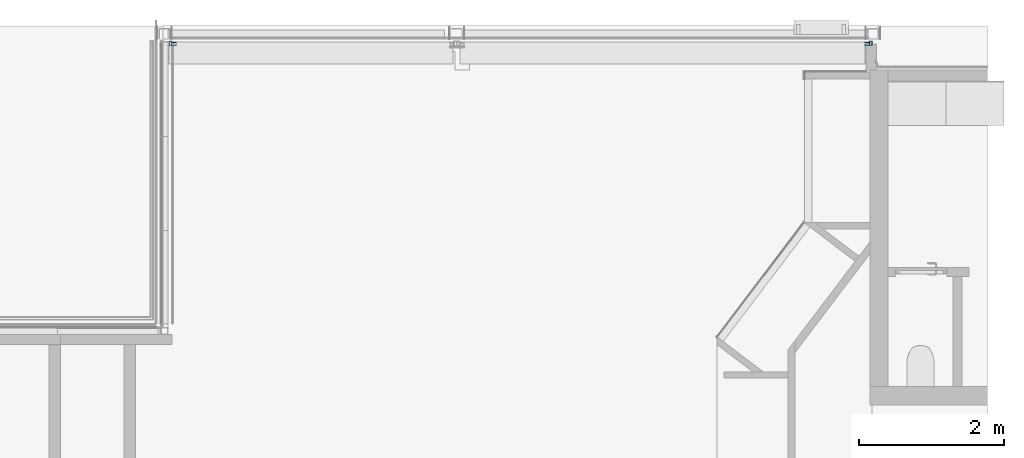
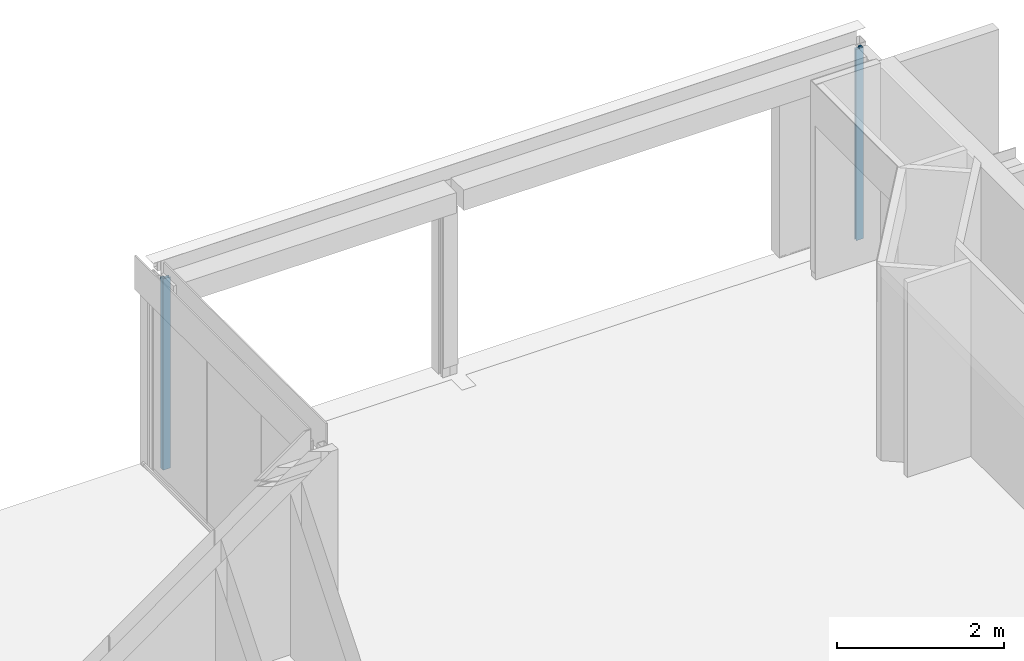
# One storey, part 25 of 37: 2 columns.
"""IFC2X3 building model written with IfcOpenShell, lengths in millimetres."""

import ifcopenshell
import ifcopenshell.guid

model = None  # the IFC model being written
_history = None  # IfcOwnerHistory: only IFC2X3 demands one
_inside = {}  # id of a spatial element -> (the spatial element, [elements in it])
_under = {}  # id of a project, library or spatial element -> (it, [spatial elements below it])
_declared = {}  # id of a project -> (the project, [libraries it declares])
_typed = {}  # id of a type object -> (the type object, [elements of that type])
_made_of = {}  # id of a material, layer set ... -> (it, [elements and type objects made of it])


def new_model(schema):
    """Start an empty IFC model of exactly this schema.

    Asked for "IFC4X3", IfcOpenShell would pick the latest addendum, in which some entities
    have other attributes; the version numbers below select the first issue.
    IFC2X3 requires an IfcOwnerHistory on every rooted entity: one is made here for all.
    """
    global model, _history
    if schema == "IFC4X3":
        model = ifcopenshell.file(schema_version=(4, 3, 0, 0))
    else:
        model = ifcopenshell.file(schema=schema)
    _inside.clear()
    _under.clear()
    _declared.clear()
    _typed.clear()
    _made_of.clear()
    _history = None
    if model.schema == "IFC2X3":
        org = make("IfcOrganization", Name="unknown")
        user = make(
            "IfcPersonAndOrganization",
            ThePerson=make("IfcPerson", FamilyName="unknown"),
            TheOrganization=org,
        )
        app = make(
            "IfcApplication",
            ApplicationDeveloper=org,
            Version="unknown",
            ApplicationFullName="unknown",
            ApplicationIdentifier="unknown",
        )
        _history = make(
            "IfcOwnerHistory",
            OwningUser=user,
            OwningApplication=app,
            ChangeAction="ADDED",
            CreationDate=0,
        )
    return model


def make(cls, **values):
    """One entity of the class cls with the attributes given. An attribute that is None is left unset."""
    return model.create_entity(
        cls, **{name: value for name, value in values.items() if value is not None}
    )


def entity(cls, *values):
    """Any entity or typed value of the class cls, its attributes in the order of the schema. None: left unset."""
    e = model.create_entity(cls)
    for i, value in enumerate(values):
        if value is not None:
            e[i] = value
    return e


def rooted(cls, **values):
    """An entity with a GlobalId (a new one), such as an element, a storey or a relation."""
    return make(cls, GlobalId=ifcopenshell.guid.new(), OwnerHistory=_history, **values)


def si_unit(unit_type, name, prefix=None):
    """IfcSIUnit, for example si_unit("LENGTHUNIT", "METRE", prefix="MILLI")."""
    return make("IfcSIUnit", UnitType=unit_type, Prefix=prefix, Name=name)


def converted_unit(unit_type, name, factor, base, dimensions=None, offset=None):
    """IfcConversionBasedUnit, such as the inch: factor (a typed value) times the base unit."""
    return make(
        "IfcConversionBasedUnit"
        if offset is None
        else "IfcConversionBasedUnitWithOffset",
        ConversionOffset=offset,
        Dimensions=None
        if dimensions is None
        else entity("IfcDimensionalExponents", *dimensions),
        UnitType=unit_type,
        Name=name,
        ConversionFactor=make(
            "IfcMeasureWithUnit", ValueComponent=factor, UnitComponent=base
        ),
    )


def derived_unit(unit_type, elements):
    """IfcDerivedUnit: a product of units, each with its exponent."""
    return make(
        "IfcDerivedUnit",
        Elements=[
            make("IfcDerivedUnitElement", Unit=unit, Exponent=power)
            for unit, power in elements
        ],
        UnitType=unit_type,
    )


def assignment(units):
    """IfcUnitAssignment: the units of a project."""
    return None if units is None else make("IfcUnitAssignment", Units=units)


def point(xyz):
    """IfcCartesianPoint."""
    return None if xyz is None else make("IfcCartesianPoint", Coordinates=xyz)


def direction(xyz):
    """IfcDirection."""
    return None if xyz is None else make("IfcDirection", DirectionRatios=xyz)


def frame(location, z_axis=None, x_axis=None):
    """IfcAxis2Placement3D, a coordinate frame: its origin and axes. An axis left out is left unset."""
    return make(
        "IfcAxis2Placement3D",
        Location=point(location),
        Axis=direction(z_axis),
        RefDirection=direction(x_axis),
    )


def origin():
    """The frame at (0, 0, 0) with its axes left unset."""
    return frame((0.0, 0.0, 0.0))


def origin_with_axes():
    """The frame at (0, 0, 0) with the z axis (0, 0, 1) and the x axis (1, 0, 0) written out."""
    return frame((0.0, 0.0, 0.0), z_axis=(0.0, 0.0, 1.0), x_axis=(1.0, 0.0, 0.0))


def place(relative_to, where):
    """IfcLocalPlacement: puts the frame where relative to a parent placement (None: the world)."""
    return make(
        "IfcLocalPlacement", PlacementRelTo=relative_to, RelativePlacement=where
    )


def context(
    kind, dimensions, precision=None, world=None, true_north=None, identifier=None
):
    """IfcGeometricRepresentationContext, for example the 3D "Model" context."""
    return make(
        "IfcGeometricRepresentationContext",
        ContextIdentifier=identifier,
        ContextType=kind,
        CoordinateSpaceDimension=dimensions,
        Precision=precision,
        WorldCoordinateSystem=world,
        TrueNorth=true_north,
    )


def subcontext(parent, identifier, kind, view, scale=None):
    """IfcGeometricRepresentationSubContext, for example "Body" below "Model"."""
    return make(
        "IfcGeometricRepresentationSubContext",
        ContextIdentifier=identifier,
        ContextType=kind,
        ParentContext=parent,
        TargetScale=scale,
        TargetView=view,
    )


def project(units=None, contexts=None):
    """IfcProject with its units and contexts."""
    return rooted(
        "IfcProject",
        Name="project",
        RepresentationContexts=contexts,
        UnitsInContext=assignment(units),
    )


def spatial(cls, under=None, at=None, **own):
    """A site, building, storey or space (cls), placed at a placement, below another one or the project."""
    s = rooted(cls, ObjectPlacement=at, **own)
    if under is not None:
        _under.setdefault(under.id(), (under, []))[1].append(s)
    return s


def faces_of(points, faces, orient=None, outer=None):
    """IfcFace entities. A face is a list of loops; a loop is a list of indices into points, from 0.

    orient and outer hold one flag for each loop. By default every Orientation is true, the
    first loop of a face is its IfcFaceOuterBound and the others are IfcFaceBound.
    """
    made = []
    for i, loops in enumerate(faces):
        bounds = []
        for j, loop in enumerate(loops):
            is_outer = j == 0 if outer is None else outer[i][j]
            bounds.append(
                make(
                    "IfcFaceOuterBound" if is_outer else "IfcFaceBound",
                    Bound=make("IfcPolyLoop", Polygon=[points[k] for k in loop]),
                    Orientation=True if orient is None else orient[i][j],
                )
            )
        made.append(make("IfcFace", Bounds=bounds))
    return made


def faceted_brep(points, faces, orient=None, outer=None, voids=None):
    """IfcFacetedBrep: a solid bounded by flat faces; with voids (closed shells), ...WithVoids."""
    shared = [point(p) for p in points]
    hull = make("IfcClosedShell", CfsFaces=faces_of(shared, faces, orient, outer))
    if voids is None:
        return make("IfcFacetedBrep", Outer=hull)
    return make(
        "IfcFacetedBrepWithVoids",
        Outer=hull,
        Voids=[
            make(cls, CfsFaces=faces_of(shared, fs, o, b)) for cls, fs, o, b in voids
        ],
    )


def shape(context_of_items, identifier, shape_type, items):
    """IfcShapeRepresentation: the items that make up one representation, for example the "Body"."""
    return make(
        "IfcShapeRepresentation",
        ContextOfItems=context_of_items,
        RepresentationIdentifier=identifier,
        RepresentationType=shape_type,
        Items=items,
    )


def source(mapping_origin, context_of_items, identifier, shape_type, items):
    """IfcRepresentationMap: a shape defined once, which mapped items show again and again."""
    return make(
        "IfcRepresentationMap",
        MappingOrigin=mapping_origin,
        MappedRepresentation=shape(context_of_items, identifier, shape_type, items),
    )


def transform(
    local_origin,
    x_axis=None,
    y_axis=None,
    z_axis=None,
    scale=None,
    scale2=None,
    scale3=None,
    uniform=True,
):
    """IfcCartesianTransformationOperator3D, or its non-uniform kind. x_axis, y_axis, z_axis: its Axis1, 2, 3."""
    if uniform:
        return make(
            "IfcCartesianTransformationOperator3D",
            Axis1=direction(x_axis),
            Axis2=direction(y_axis),
            LocalOrigin=point(local_origin),
            Scale=scale,
            Axis3=direction(z_axis),
        )
    return make(
        "IfcCartesianTransformationOperator3DnonUniform",
        Axis1=direction(x_axis),
        Axis2=direction(y_axis),
        LocalOrigin=point(local_origin),
        Scale=scale,
        Axis3=direction(z_axis),
        Scale2=scale2,
        Scale3=scale3,
    )


def mapped(mapping_source, mapping_target):
    """IfcMappedItem: shows the shape of a source again, moved by a transform."""
    return make(
        "IfcMappedItem", MappingSource=mapping_source, MappingTarget=mapping_target
    )


def material(Name=None, Category=None):
    """IfcMaterial."""
    return make("IfcMaterial", Name=Name, Category=Category)


def made_of(thing, what):
    """Note that an element or type object is made of a material, layer set ...; save() writes the relation."""
    if what is not None:
        _made_of.setdefault(what.id(), (what, []))[1].append(thing)
    return thing


def type_object(cls, material=None, **own):
    """A type object (cls), such as IfcWallType, which elements share."""
    return made_of(rooted(cls, **own), material)


def element(
    cls,
    number,
    at=None,
    inside=None,
    cuts=None,
    type_object=None,
    material=None,
    context=None,
    identifier="Body",
    shape_type=None,
    held_by="IfcProductDefinitionShape",
    body=None,
    shapes=None,
    **own,
):
    """One element of the class cls, such as IfcWall. Its Tag is "e" and its number.

    at: its placement. inside: the storey or other place that contains it. cuts: it is an
    opening in that element (IfcRelVoidsElement). A single representation is given by context,
    identifier, shape_type and body (its items); several are given by shapes. held_by: the class
    of the entity that holds the representations. save() writes the other relations.
    """
    e = rooted(cls, Tag="e%d" % number, ObjectPlacement=at, **own)
    if body is not None:
        shapes = [shape(context, identifier, shape_type, body)]
    if shapes is not None:
        e.Representation = make(held_by, Representations=shapes)
    if inside is not None:
        _inside.setdefault(inside.id(), (inside, []))[1].append(e)
    if cuts is not None:
        rooted(
            "IfcRelVoidsElement", RelatingBuildingElement=cuts, RelatedOpeningElement=e
        )
    if type_object is not None:
        _typed.setdefault(type_object.id(), (type_object, []))[1].append(e)
    return made_of(e, material)


def aggregate(whole, parts):
    """IfcRelAggregates: a whole, such as a stair, and the parts it consists of."""
    return rooted("IfcRelAggregates", RelatingObject=whole, RelatedObjects=parts)


def save(model, path):
    """Write the relations noted so far, then the file.

    IfcRelAggregates (storeys below a building ...), IfcRelContainedInSpatialStructure (elements
    in a storey), IfcRelDefinesByType, IfcRelAssociatesMaterial and IfcRelDeclares: one each for
    every whole, place, type object, material and project.
    """
    for whole, parts in _under.values():
        aggregate(whole, parts)
    for where, things in _inside.values():
        rooted(
            "IfcRelContainedInSpatialStructure",
            RelatedElements=things,
            RelatingStructure=where,
        )
    for kind, things in _typed.values():
        rooted("IfcRelDefinesByType", RelatedObjects=things, RelatingType=kind)
    for what, things in _made_of.values():
        rooted("IfcRelAssociatesMaterial", RelatedObjects=things, RelatingMaterial=what)
    for by, libraries in _declared.values():
        rooted("IfcRelDeclares", RelatingContext=by, RelatedDefinitions=libraries)
    model.write(path)


model = new_model("IFC2X3")

# Units and contexts
model_context = context("Model", 3, precision=0.01, world=frame((0.0, 4.29681676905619e-09, 0.0)), true_north=direction((4.01073788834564e-13, 1.0)))
plan_context = context("Plan", 3, precision=0.01, world=frame((0.0, 4.29681676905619e-09, 0.0)), true_north=direction((4.01073788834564e-13, 1.0)))
body_context = subcontext(model_context, "Body", "Model", "MODEL_VIEW")
ifc_project = project(units=[converted_unit("PLANEANGLEUNIT", "DEGREE", entity("IfcPositiveLengthMeasure", 0.0174532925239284), si_unit("PLANEANGLEUNIT", "RADIAN"), dimensions=[0, 0, 0, 0, 0, 0, 0]), si_unit("AREAUNIT", "SQUARE_METRE"), si_unit("LENGTHUNIT", "METRE", prefix="MILLI"), si_unit("MASSUNIT", "GRAM", prefix="KILO"), si_unit("POWERUNIT", "WATT"), si_unit("PRESSUREUNIT", "PASCAL"), si_unit("FORCEUNIT", "NEWTON", prefix="KILO"), si_unit("ELECTRICVOLTAGEUNIT", "VOLT"), si_unit("ELECTRICCURRENTUNIT", "AMPERE"), si_unit("THERMODYNAMICTEMPERATUREUNIT", "DEGREE_CELSIUS"), si_unit("TIMEUNIT", "SECOND"), si_unit("VOLUMEUNIT", "CUBIC_METRE"), derived_unit("LINEARVELOCITYUNIT", [(si_unit("LENGTHUNIT", "METRE"), 1), (si_unit("TIMEUNIT", "SECOND"), -1)]), derived_unit("VOLUMETRICFLOWRATEUNIT", [(si_unit("VOLUMEUNIT", "CUBIC_METRE"), 1), (si_unit("TIMEUNIT", "SECOND"), -1)]), derived_unit("THERMALTRANSMITTANCEUNIT", [(si_unit("POWERUNIT", "WATT"), 1), (si_unit("THERMODYNAMICTEMPERATUREUNIT", "KELVIN"), -1), (si_unit("AREAUNIT", "SQUARE_METRE"), -1)]), derived_unit("SOUNDPRESSUREUNIT", [(si_unit("PRESSUREUNIT", "PASCAL"), 1)])], contexts=[model_context, plan_context])

# Site, building, storey
site_placement = place(None, origin_with_axes())
site = spatial("IfcSite", under=ifc_project, at=site_placement, Name="ENGM", CompositionType="ELEMENT")
building_placement = place(site_placement, origin_with_axes())
building = spatial("IfcBuilding", under=site, at=building_placement, Name="TS", CompositionType="ELEMENT")
storey_placement = place(building_placement, frame((0.0, 0.0, 210900.0), z_axis=(0.0, 0.0, 1.0), x_axis=(1.0, 0.0, 0.0)))
storey = spatial("IfcBuildingStorey", under=building, at=storey_placement, Name="Nivå F", CompositionType="ELEMENT", Elevation=210900.0)

# Columns
ifc_material = material(Name="_NSW Stål")
column_type_1 = type_object("IfcColumnType", Name="A243 - Rullegardinskinner1:A243 - Portskinne Trav Val Innl", PredefinedType="COLUMN", material=ifc_material)
shared_shape_1 = source(origin(), body_context, "Body", "Brep", [
    faceted_brep([(-20.0, 100.0, 210900.0), (-14.0, 100.0, 210900.0), (-14.0, 90.0, 210900.0), (-17.0, 90.0, 210900.0), (-17.0, 38.0, 210900.0), (17.0, 38.0, 210900.0), (17.0, 90.0, 210900.0), (14.0, 90.0, 210900.0), (14.0, 100.0, 210900.0), (20.0, 100.0, 210900.0), (20.0, 0.0, 210900.0), (-40.0, 0.0, 210900.0), (-40.0, 38.0, 210900.0), (-20.0, 38.0, 210900.0), (-37.0, 3.0, 210900.0), (17.0, 3.0, 210900.0), (17.0, 35.0, 210900.0), (-37.0, 35.0, 210900.0), (-20.0, 100.0, 213700.0), (-14.0, 100.0, 213700.0), (-14.0, 90.0, 213700.0), (-17.0, 90.0, 213700.0), (-17.0, 38.0, 213700.0), (17.0, 38.0, 213700.0), (17.0, 90.0, 213700.0), (14.0, 90.0, 213700.0), (14.0, 100.0, 213700.0), (20.0, 100.0, 213700.0), (20.0, 0.0, 213700.0), (-40.0, 0.0, 213700.0), (-40.0, 38.0, 213700.0), (-20.0, 38.0, 213700.0), (-37.0, 3.0, 213700.0), (17.0, 3.0, 213700.0), (17.0, 35.0, 213700.0), (-37.0, 35.0, 213700.0)], [[[0, 1, 2, 3, 4, 5, 6, 7, 8, 9, 10, 11, 12, 13], [14, 15, 16, 17]], [[1, 0, 18, 19]], [[2, 1, 19, 20]], [[3, 2, 20, 21]], [[4, 3, 21, 22]], [[5, 4, 22, 23]], [[6, 5, 23, 24]], [[7, 6, 24, 25]], [[8, 7, 25, 26]], [[9, 8, 26, 27]], [[10, 9, 27, 28]], [[11, 10, 28, 29]], [[12, 11, 29, 30]], [[13, 12, 30, 31]], [[0, 13, 31, 18]], [[15, 14, 32, 33]], [[16, 15, 33, 34]], [[17, 16, 34, 35]], [[14, 17, 35, 32]], [[19, 18, 31, 30, 29, 28, 27, 26, 25, 24, 23, 22, 21, 20], [33, 32, 35, 34]]]),
])
column_1_placement = place(storey_placement, frame((525035.000000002, 461659.999999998, -210900.0), z_axis=(0.0, 0.0, 1.0), x_axis=(0.0, -1.0, 0.0)))
element("IfcColumn", 1, at=column_1_placement, inside=storey, type_object=column_type_1, material=ifc_material, Name="A243 - Rullegardinskinner1:A243 - Portskinne Trav Val Innl", ObjectType="A243 - Rullegardinskinner1:A243 - Portskinne Trav Val Innl", context=body_context, shape_type="MappedRepresentation", body=[
    mapped(shared_shape_1, transform((0.0, 0.0, 0.0), scale=1.0)),
])
column_type_2 = type_object("IfcColumnType", Name="A243 - Rullegardinskinner1:A243 - Portskinne Trav Val Innl", PredefinedType="COLUMN", material=ifc_material)
shared_shape_2 = source(origin(), body_context, "Body", "Brep", [
    faceted_brep([(-20.0, -100.0, 210900.0), (-20.0, -38.0, 210900.0), (-40.0, -38.0, 210900.0), (-40.0, 0.0, 210900.0), (20.0, 0.0, 210900.0), (20.0, -100.0, 210900.0), (14.0, -100.0, 210900.0), (14.0, -90.0, 210900.0), (17.0, -90.0, 210900.0), (17.0, -38.0, 210900.0), (-17.0, -38.0, 210900.0), (-17.0, -90.0, 210900.0), (-14.0, -90.0, 210900.0), (-14.0, -100.0, 210900.0), (-37.0, -3.0, 210900.0), (-37.0, -35.0, 210900.0), (17.0, -35.0, 210900.0), (17.0, -3.0, 210900.0), (-14.0, -100.0, 213700.0), (-20.0, -100.0, 213700.0), (-14.0, -90.0, 213700.0), (-17.0, -90.0, 213700.0), (-17.0, -38.0, 213700.0), (17.0, -38.0, 213700.0), (17.0, -90.0, 213700.0), (14.0, -90.0, 213700.0), (14.0, -100.0, 213700.0), (20.0, -100.0, 213700.0), (20.0, 0.0, 213700.0), (-40.0, 0.0, 213700.0), (-40.0, -38.0, 213700.0), (-20.0, -38.0, 213700.0), (17.0, -3.0, 213700.0), (-37.0, -3.0, 213700.0), (17.0, -35.0, 213700.0), (-37.0, -35.0, 213700.0)], [[[0, 1, 2, 3, 4, 5, 6, 7, 8, 9, 10, 11, 12, 13], [14, 15, 16, 17]], [[0, 13, 18, 19]], [[13, 12, 20, 18]], [[12, 11, 21, 20]], [[11, 10, 22, 21]], [[10, 9, 23, 22]], [[9, 8, 24, 23]], [[8, 7, 25, 24]], [[7, 6, 26, 25]], [[6, 5, 27, 26]], [[5, 4, 28, 27]], [[4, 3, 29, 28]], [[3, 2, 30, 29]], [[2, 1, 31, 30]], [[1, 0, 19, 31]], [[14, 17, 32, 33]], [[17, 16, 34, 32]], [[16, 15, 35, 34]], [[15, 14, 33, 35]], [[19, 18, 20, 21, 22, 23, 24, 25, 26, 27, 28, 29, 30, 31], [33, 32, 34, 35]]]),
])
column_2_placement = place(storey_placement, frame((534728.000000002, 461659.999999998, -210900.0), z_axis=(0.0, 0.0, 1.0), x_axis=(0.0, -1.0, 0.0)))
element("IfcColumn", 2, at=column_2_placement, inside=storey, type_object=column_type_2, material=ifc_material, Name="A243 - Rullegardinskinner1:A243 - Portskinne Trav Val Innl", ObjectType="A243 - Rullegardinskinner1:A243 - Portskinne Trav Val Innl", context=body_context, shape_type="MappedRepresentation", body=[
    mapped(shared_shape_2, transform((0.0, 0.0, 0.0), scale=1.0)),
])

save(model, "model.ifc")
